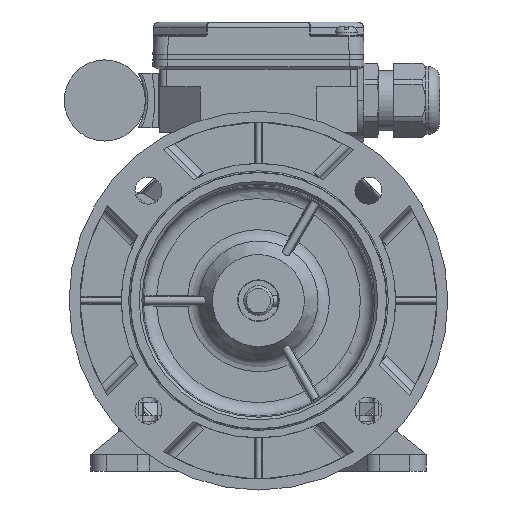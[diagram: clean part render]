
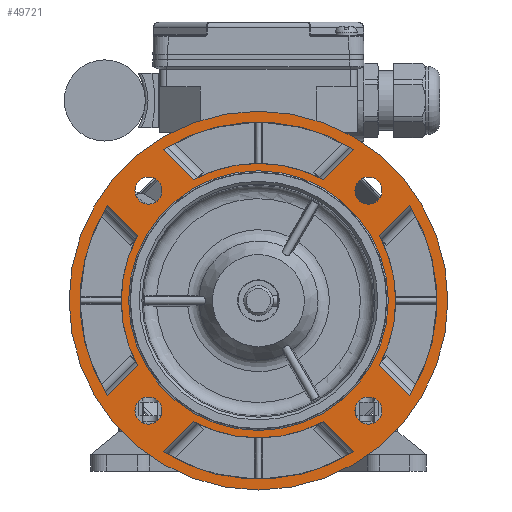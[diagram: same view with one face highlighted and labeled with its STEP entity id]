
A CAD part, left-side view. The second image highlights one B-rep face of the part: STEP entity #49721.
In plain terms, the highlighted planar face has unit normal (-1, 0, 0).
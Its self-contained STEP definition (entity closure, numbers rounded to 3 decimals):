
#3763=LINE('',#74696,#6471);
#3764=LINE('',#74715,#6472);
#3765=LINE('',#74724,#6473);
#3766=LINE('',#74743,#6474);
#3767=LINE('',#74752,#6475);
#3768=LINE('',#74771,#6476);
#3769=LINE('',#74785,#6477);
#3770=LINE('',#74799,#6478);
#6471=VECTOR('',#61019,1000.);
#6472=VECTOR('',#61026,1000.);
#6473=VECTOR('',#61033,1000.);
#6474=VECTOR('',#61040,1000.);
#6475=VECTOR('',#61047,1000.);
#6476=VECTOR('',#61054,1000.);
#6477=VECTOR('',#61061,1000.);
#6478=VECTOR('',#61068,1000.);
#7765=PLANE('',#52838);
#15611=ORIENTED_EDGE('',*,*,#22435,.F.);
#15612=ORIENTED_EDGE('',*,*,#22434,.F.);
#15613=ORIENTED_EDGE('',*,*,#22433,.F.);
#15614=ORIENTED_EDGE('',*,*,#22432,.F.);
#15615=ORIENTED_EDGE('',*,*,#22431,.T.);
#15616=ORIENTED_EDGE('',*,*,#22430,.F.);
#15617=ORIENTED_EDGE('',*,*,#22427,.F.);
#15618=ORIENTED_EDGE('',*,*,#22426,.T.);
#15619=ORIENTED_EDGE('',*,*,#22423,.F.);
#15620=ORIENTED_EDGE('',*,*,#22422,.T.);
#15621=ORIENTED_EDGE('',*,*,#22419,.T.);
#15622=ORIENTED_EDGE('',*,*,#22417,.F.);
#15623=ORIENTED_EDGE('',*,*,#22415,.F.);
#15624=ORIENTED_EDGE('',*,*,#22414,.T.);
#15625=ORIENTED_EDGE('',*,*,#22411,.T.);
#15626=ORIENTED_EDGE('',*,*,#22409,.F.);
#15627=ORIENTED_EDGE('',*,*,#22407,.F.);
#15628=ORIENTED_EDGE('',*,*,#22406,.T.);
#15629=ORIENTED_EDGE('',*,*,#22403,.T.);
#15630=ORIENTED_EDGE('',*,*,#22401,.F.);
#15631=ORIENTED_EDGE('',*,*,#22399,.T.);
#15632=ORIENTED_EDGE('',*,*,#22515,.T.);
#22399=EDGE_CURVE('',#26483,#26483,#28543,.T.);
#22401=EDGE_CURVE('',#26484,#26485,#3763,.T.);
#22403=EDGE_CURVE('',#26486,#26485,#28544,.T.);
#22406=EDGE_CURVE('',#26487,#26486,#3764,.T.);
#22407=EDGE_CURVE('',#26487,#26484,#28545,.T.);
#22409=EDGE_CURVE('',#26488,#26489,#3765,.T.);
#22411=EDGE_CURVE('',#26490,#26489,#28546,.T.);
#22414=EDGE_CURVE('',#26491,#26490,#3766,.T.);
#22415=EDGE_CURVE('',#26491,#26488,#28547,.T.);
#22417=EDGE_CURVE('',#26492,#26493,#3767,.T.);
#22419=EDGE_CURVE('',#26494,#26493,#28548,.T.);
#22422=EDGE_CURVE('',#26495,#26494,#3768,.T.);
#22423=EDGE_CURVE('',#26495,#26492,#28549,.T.);
#22426=EDGE_CURVE('',#26496,#26497,#3769,.T.);
#22427=EDGE_CURVE('',#26496,#26498,#28550,.T.);
#22430=EDGE_CURVE('',#26498,#26499,#3770,.T.);
#22431=EDGE_CURVE('',#26497,#26499,#28551,.T.);
#22432=EDGE_CURVE('',#26500,#26500,#28552,.T.);
#22433=EDGE_CURVE('',#26501,#26501,#28553,.T.);
#22434=EDGE_CURVE('',#26502,#26502,#28554,.T.);
#22435=EDGE_CURVE('',#26503,#26503,#28555,.T.);
#22515=EDGE_CURVE('',#26566,#26566,#28588,.F.);
#26483=VERTEX_POINT('',#74689);
#26484=VERTEX_POINT('',#74695);
#26485=VERTEX_POINT('',#74697);
#26486=VERTEX_POINT('',#74704);
#26487=VERTEX_POINT('',#74714);
#26488=VERTEX_POINT('',#74723);
#26489=VERTEX_POINT('',#74725);
#26490=VERTEX_POINT('',#74732);
#26491=VERTEX_POINT('',#74742);
#26492=VERTEX_POINT('',#74751);
#26493=VERTEX_POINT('',#74753);
#26494=VERTEX_POINT('',#74760);
#26495=VERTEX_POINT('',#74770);
#26496=VERTEX_POINT('',#74779);
#26497=VERTEX_POINT('',#74784);
#26498=VERTEX_POINT('',#74788);
#26499=VERTEX_POINT('',#74798);
#26500=VERTEX_POINT('',#74804);
#26501=VERTEX_POINT('',#74807);
#26502=VERTEX_POINT('',#74810);
#26503=VERTEX_POINT('',#74813);
#26566=VERTEX_POINT('',#74995);
#28543=CIRCLE('',#52735,70.);
#28544=CIRCLE('',#52738,50.75);
#28545=CIRCLE('',#52741,66.);
#28546=CIRCLE('',#52744,50.75);
#28547=CIRCLE('',#52747,66.);
#28548=CIRCLE('',#52750,50.75);
#28549=CIRCLE('',#52753,66.);
#28550=CIRCLE('',#52756,66.);
#28551=CIRCLE('',#52759,50.75);
#28552=CIRCLE('',#52761,5.);
#28553=CIRCLE('',#52763,5.);
#28554=CIRCLE('',#52765,5.);
#28555=CIRCLE('',#52767,5.);
#28588=CIRCLE('',#52839,48.);
#30728=EDGE_LOOP('',(#15611));
#30729=EDGE_LOOP('',(#15612));
#30730=EDGE_LOOP('',(#15613));
#30731=EDGE_LOOP('',(#15614));
#30732=EDGE_LOOP('',(#15615,#15616,#15617,#15618));
#30733=EDGE_LOOP('',(#15619,#15620,#15621,#15622));
#30734=EDGE_LOOP('',(#15623,#15624,#15625,#15626));
#30735=EDGE_LOOP('',(#15627,#15628,#15629,#15630));
#30736=EDGE_LOOP('',(#15631));
#30737=EDGE_LOOP('',(#15632));
#33138=FACE_BOUND('',#30728,.T.);
#33139=FACE_BOUND('',#30729,.T.);
#33140=FACE_BOUND('',#30730,.T.);
#33141=FACE_BOUND('',#30731,.T.);
#33142=FACE_BOUND('',#30732,.T.);
#33143=FACE_BOUND('',#30733,.T.);
#33144=FACE_BOUND('',#30734,.T.);
#33145=FACE_BOUND('',#30735,.T.);
#33146=FACE_BOUND('',#30736,.T.);
#33147=FACE_BOUND('',#30737,.T.);
#49721=ADVANCED_FACE('',(#33138,#33139,#33140,#33141,#33142,#33143,#33144,
#33145,#33146,#33147),#7765,.T.);
#52735=AXIS2_PLACEMENT_3D('',#74688,#61015,#61016);
#52738=AXIS2_PLACEMENT_3D('',#74703,#61022,#61023);
#52741=AXIS2_PLACEMENT_3D('',#74717,#61029,#61030);
#52744=AXIS2_PLACEMENT_3D('',#74731,#61036,#61037);
#52747=AXIS2_PLACEMENT_3D('',#74745,#61043,#61044);
#52750=AXIS2_PLACEMENT_3D('',#74759,#61050,#61051);
#52753=AXIS2_PLACEMENT_3D('',#74773,#61057,#61058);
#52756=AXIS2_PLACEMENT_3D('',#74787,#61064,#61065);
#52759=AXIS2_PLACEMENT_3D('',#74801,#61071,#61072);
#52761=AXIS2_PLACEMENT_3D('',#74803,#61075,#61076);
#52763=AXIS2_PLACEMENT_3D('',#74806,#61079,#61080);
#52765=AXIS2_PLACEMENT_3D('',#74809,#61083,#61084);
#52767=AXIS2_PLACEMENT_3D('',#74812,#61087,#61088);
#52838=AXIS2_PLACEMENT_3D('',#74993,#61276,#61277);
#52839=AXIS2_PLACEMENT_3D('',#74994,#61278,#61279);
#61015=DIRECTION('',(-1.,0.,0.));
#61016=DIRECTION('',(0.,-1.,0.));
#61019=DIRECTION('',(0.,0.707,0.707));
#61022=DIRECTION('',(-1.,0.,0.));
#61023=DIRECTION('',(0.,-1.,0.));
#61026=DIRECTION('',(0.,-0.707,0.707));
#61029=DIRECTION('',(-1.,0.,0.));
#61030=DIRECTION('',(0.,-1.,0.));
#61033=DIRECTION('',(0.,-0.707,0.707));
#61036=DIRECTION('',(-1.,0.,0.));
#61037=DIRECTION('',(0.,-1.,0.));
#61040=DIRECTION('',(0.,-0.707,-0.707));
#61043=DIRECTION('',(-1.,0.,0.));
#61044=DIRECTION('',(0.,-1.,0.));
#61047=DIRECTION('',(0.,-0.707,-0.707));
#61050=DIRECTION('',(-1.,0.,0.));
#61051=DIRECTION('',(0.,-1.,0.));
#61054=DIRECTION('',(0.,0.707,-0.707));
#61057=DIRECTION('',(-1.,0.,0.));
#61058=DIRECTION('',(0.,-1.,0.));
#61061=DIRECTION('',(0.,0.707,0.707));
#61064=DIRECTION('',(-1.,0.,0.));
#61065=DIRECTION('',(0.,-1.,0.));
#61068=DIRECTION('',(0.,0.707,-0.707));
#61071=DIRECTION('',(-1.,0.,0.));
#61072=DIRECTION('',(0.,-1.,0.));
#61075=DIRECTION('',(-1.,0.,0.));
#61076=DIRECTION('',(0.,-1.,0.));
#61079=DIRECTION('',(-1.,0.,0.));
#61080=DIRECTION('',(0.,0.,-1.));
#61083=DIRECTION('',(-1.,0.,0.));
#61084=DIRECTION('',(0.,1.,0.));
#61087=DIRECTION('',(-1.,0.,0.));
#61088=DIRECTION('',(0.,0.,1.));
#61276=DIRECTION('',(-1.,0.,0.));
#61277=DIRECTION('',(0.,-1.,0.));
#61278=DIRECTION('',(-1.,0.,0.));
#61279=DIRECTION('',(0.,-1.,0.));
#74688=CARTESIAN_POINT('',(-77.,0.,0.));
#74689=CARTESIAN_POINT('',(-77.,-70.,0.));
#74695=CARTESIAN_POINT('',(-77.,-35.168,-55.85));
#74696=CARTESIAN_POINT('',(-77.,-41.278,-61.959));
#74697=CARTESIAN_POINT('',(-77.,-24.023,-44.704));
#74703=CARTESIAN_POINT('',(-77.,0.,0.));
#74704=CARTESIAN_POINT('',(-77.,24.023,-44.704));
#74714=CARTESIAN_POINT('',(-77.,35.168,-55.85));
#74715=CARTESIAN_POINT('',(-77.,41.278,-61.959));
#74717=CARTESIAN_POINT('',(-77.,0.,0.));
#74723=CARTESIAN_POINT('',(-77.,55.85,-35.168));
#74724=CARTESIAN_POINT('',(-77.,61.959,-41.278));
#74725=CARTESIAN_POINT('',(-77.,44.704,-24.023));
#74731=CARTESIAN_POINT('',(-77.,0.,0.));
#74732=CARTESIAN_POINT('',(-77.,44.704,24.023));
#74742=CARTESIAN_POINT('',(-77.,55.85,35.168));
#74743=CARTESIAN_POINT('',(-77.,61.959,41.278));
#74745=CARTESIAN_POINT('',(-77.,0.,0.));
#74751=CARTESIAN_POINT('',(-77.,35.168,55.85));
#74752=CARTESIAN_POINT('',(-77.,41.278,61.959));
#74753=CARTESIAN_POINT('',(-77.,24.023,44.704));
#74759=CARTESIAN_POINT('',(-77.,0.,0.));
#74760=CARTESIAN_POINT('',(-77.,-24.023,44.704));
#74770=CARTESIAN_POINT('',(-77.,-35.168,55.85));
#74771=CARTESIAN_POINT('',(-77.,-41.278,61.959));
#74773=CARTESIAN_POINT('',(-77.,0.,0.));
#74779=CARTESIAN_POINT('',(-77.,-55.85,-35.168));
#74784=CARTESIAN_POINT('',(-77.,-44.704,-24.023));
#74785=CARTESIAN_POINT('',(-77.,-61.959,-41.278));
#74787=CARTESIAN_POINT('',(-77.,0.,0.));
#74788=CARTESIAN_POINT('',(-77.,-55.85,35.168));
#74798=CARTESIAN_POINT('',(-77.,-44.704,24.023));
#74799=CARTESIAN_POINT('',(-77.,-61.959,41.278));
#74801=CARTESIAN_POINT('',(-77.,0.,0.));
#74803=CARTESIAN_POINT('',(-77.,-40.659,40.659));
#74804=CARTESIAN_POINT('',(-77.,-45.659,40.659));
#74806=CARTESIAN_POINT('',(-77.,-40.659,-40.659));
#74807=CARTESIAN_POINT('',(-77.,-40.659,-45.659));
#74809=CARTESIAN_POINT('',(-77.,40.659,-40.659));
#74810=CARTESIAN_POINT('',(-77.,45.659,-40.659));
#74812=CARTESIAN_POINT('',(-77.,40.659,40.659));
#74813=CARTESIAN_POINT('',(-77.,40.659,45.659));
#74993=CARTESIAN_POINT('',(-77.,47.5,0.));
#74994=CARTESIAN_POINT('',(-77.,0.,0.));
#74995=CARTESIAN_POINT('',(-77.,-48.,0.));
